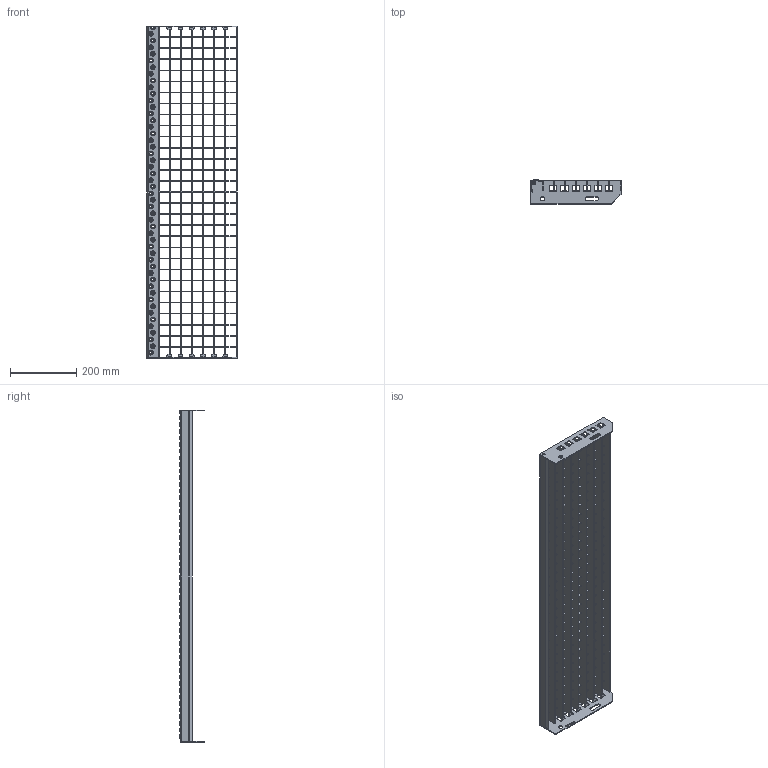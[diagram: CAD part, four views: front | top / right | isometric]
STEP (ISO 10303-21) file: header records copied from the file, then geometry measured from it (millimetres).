
FILE_DESCRIPTION(/* description */ ('','CAx-IF Rec.Pracs.---Representation and Presentation of Product Manufacturing Information (PMI)---3.8---2014-02-18'),/* implementation_level */ '2;1');
FILE_NAME(/* name */ 'C:\Users\phaverkotte\Desktop\Lager STEP\P-Stufen\P 330-33-3\P 330-33-3 1000mm x 270mm.stp',/* time_stamp */ '2018-03-24T10:00:39+01:00',/* author */ ('phaverkotte'),/* organization */ (''),/* preprocessor_version */ 'ST-DEVELOPER v16.13',/* originating_system */ 'Autodesk Inventor 2018',/* authorisation */ '');
FILE_SCHEMA (('AP242_MANAGED_MODEL_BASED_3D_ENGINEERING_MIM_LF { 1 0 10303 442 1 1 4 }'));
Length unit declared in the file: millimetre
Products named in the file (8): Schodišťový stupeň přím
ý lisovaný; Seitenplatte ausgeklinkt links; Seitenplatte 240 ausgeklinkt extern rechts; Schod nášlap; P Rošt schodu; Querstab; P Nosný pás; Hinteres Flach
Assembly tree (41 placements, depth 3):
  Schodišťový stupeň přím
ý lisovaný
    Seitenplatte ausgeklinkt links
    Seitenplatte 240 ausgeklinkt extern rechts
    Schod nášlap
    P Rošt schodu
      Querstab  x29
      P Nosný pás  x7
      Hinteres Flach
Bounding box: 271.31 x 72.75 x 1000 mm (x, y, z)
Volume: 1051418.8 mm3; surface area: 889785.8 mm2
Topology: 40 solids, 40 shells, 1700 faces, 4689 edges, 3086 vertices
Faces by surface type: plane 1344, cone 150, cylinder 132, torus 50, bspline 24
Full cylindrical faces by diameter (mm): 8 x2, 13 x2
Entity records: 28345 total; most frequent: CARTESIAN_POINT 8310, DIRECTION 4006, ORIENTED_EDGE 3788, EDGE_CURVE 1894, AXIS2_PLACEMENT_3D 1341, LINE 1324, VECTOR 1324, VERTEX_POINT 1323
